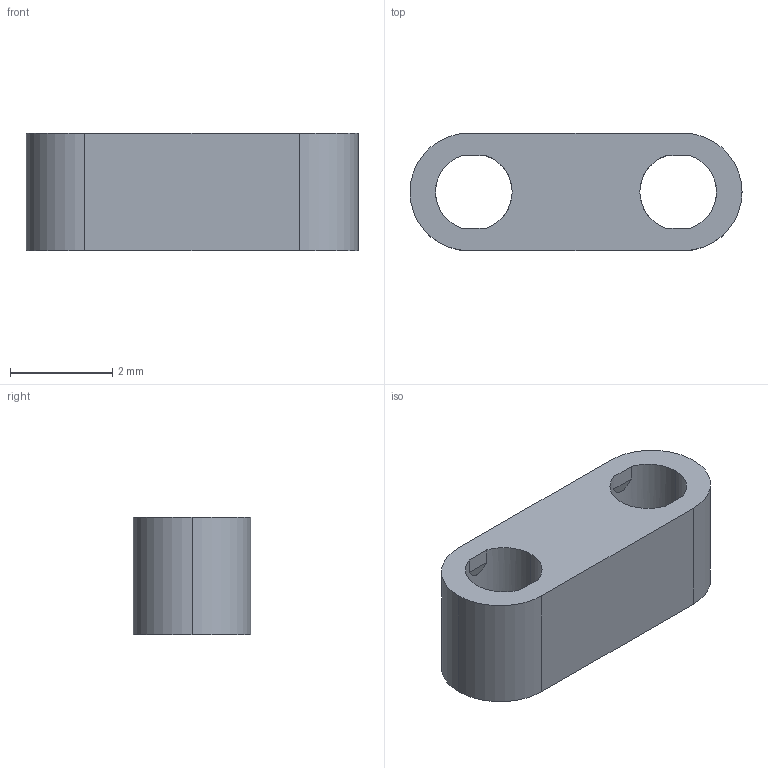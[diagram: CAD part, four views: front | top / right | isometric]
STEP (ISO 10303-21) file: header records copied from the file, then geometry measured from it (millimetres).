
FILE_DESCRIPTION((''),'2;1');
FILE_NAME('HOUSING__W___ANY_PRT','2008-06-30T',('GRA'),(''),'PRO/ENGINEER BY PARAMETRIC TECHNOLOGY CORPORATION, 2006170','PRO/ENGINEER BY PARAMETRIC TECHNOLOGY CORPORATION, 2006170','');
FILE_SCHEMA(('CONFIG_CONTROL_DESIGN'));
Length unit declared in the file: millimetre
Products named in the file (1): HOUSING__W___ANY_PRT
Bounding box: 6.5 x 2.3 x 2.3 mm (x, y, z)
Volume: 23.6 mm3; surface area: 77.7 mm2
Topology: 1 solids, 1 shells, 23 faces, 59 edges, 38 vertices
Faces by surface type: plane 12, cylinder 7, cone 4
Entity records: 765 total; most frequent: CARTESIAN_POINT 144, DIRECTION 123, ORIENTED_EDGE 118, EDGE_CURVE 59, AXIS2_PLACEMENT_3D 45, VERTEX_POINT 38, VECTOR 33, LINE 33
